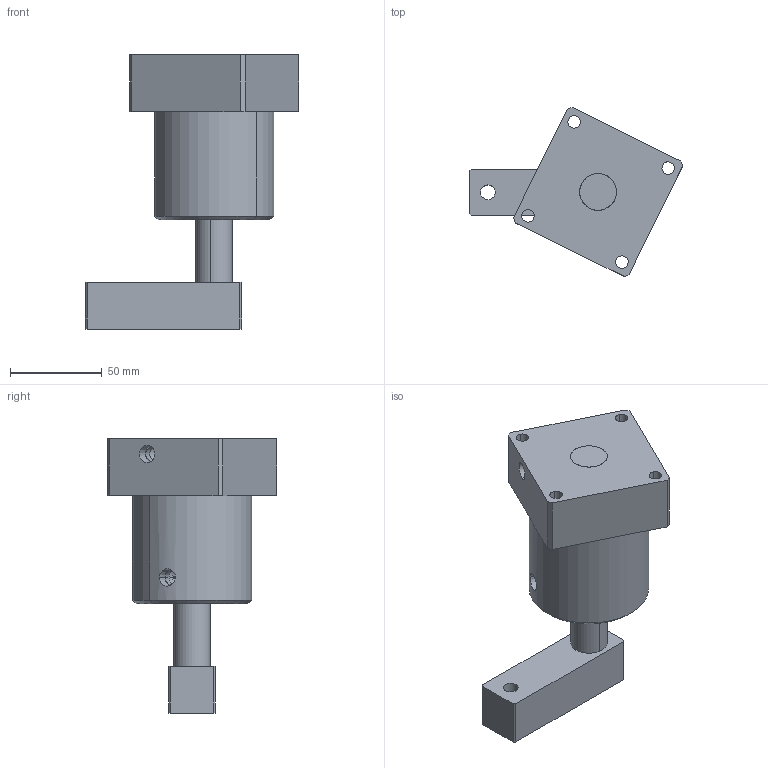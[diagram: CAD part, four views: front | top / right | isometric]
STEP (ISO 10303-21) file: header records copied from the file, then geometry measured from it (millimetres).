
FILE_DESCRIPTION (( 'STEP AP203' ), '1' );
FILE_NAME ('One side clamp ø50.STEP', '2010-02-18T14:23:55', ( 'Christophe Gaillard' ), ( 'SGA' ), 'SwSTEP 2.0', 'SolidWorks 2007', '' );
FILE_SCHEMA (( 'CONFIG_CONTROL_DESIGN' ));
Length unit declared in the file: millimetre
Products named in the file (6): Fix Tige-Clamp ø50_Défaut; Corps One-clamp ø50_Défaut; One side clamp ø50; Bride One-clamp ø50_Défaut; Tige one-clamp ø50_Défaut; Base One clamp ø50_Défaut
Assembly tree (5 placements, depth 2):
  One side clamp ø50
    Tige one-clamp ø50_Défaut
    Base One clamp ø50_Défaut
    Fix Tige-Clamp ø50_Défaut
    Corps One-clamp ø50_Défaut
    Bride One-clamp ø50_Défaut
Bounding box: 115.97 x 91.94 x 149.57 mm (x, y, z)
Volume: 404835.2 mm3; surface area: 67379.9 mm2
Topology: 5 solids, 5 shells, 82 faces, 188 edges, 119 vertices
Faces by surface type: cylinder 36, plane 32, cone 14
Entity records: 3018 total; most frequent: CARTESIAN_POINT 457, DIRECTION 442, ORIENTED_EDGE 364, EDGE_CURVE 182, AXIS2_PLACEMENT_3D 172, VERTEX_POINT 119, EDGE_LOOP 107, VECTOR 98
